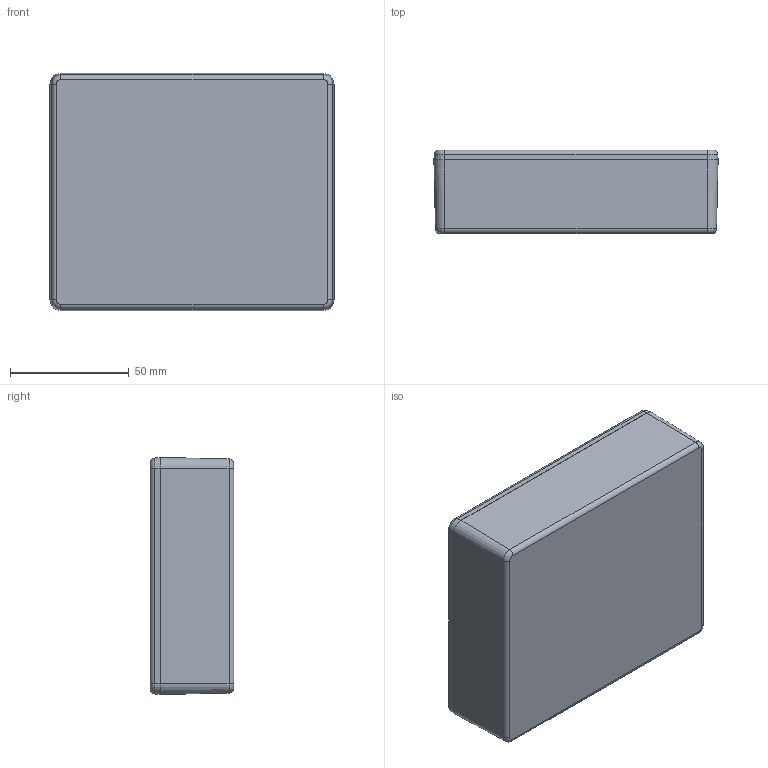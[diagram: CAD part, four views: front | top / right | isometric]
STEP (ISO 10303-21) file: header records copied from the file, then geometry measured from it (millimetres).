
FILE_DESCRIPTION (( 'STEP AP203' ), '1' );
FILE_NAME ('SE-407-0-0.STEP', '2020-01-31T10:49:03', ( '' ), ( '' ), 'SwSTEP 2.0', 'SolidWorks 2020', '' );
FILE_SCHEMA (( 'CONFIG_CONTROL_DESIGN' ));
Length unit declared in the file: millimetre
Products named in the file (3): SE-407-P-2; SE-407-P-1; SE-407-0-0
Assembly tree (2 placements, depth 2):
  SE-407-0-0
    SE-407-P-2
    SE-407-P-1
Bounding box: 119.7 x 35.1 x 99.9 mm (x, y, z)
Volume: 84521 mm3; surface area: 76984 mm2
Topology: 2 solids, 2 shells, 235 faces, 616 edges, 392 vertices
Faces by surface type: plane 103, cone 64, cylinder 44, torus 24
Entity records: 7587 total; most frequent: DIRECTION 1328, CARTESIAN_POINT 1296, ORIENTED_EDGE 1232, EDGE_CURVE 616, AXIS2_PLACEMENT_3D 488, VERTEX_POINT 392, VECTOR 352, LINE 352
